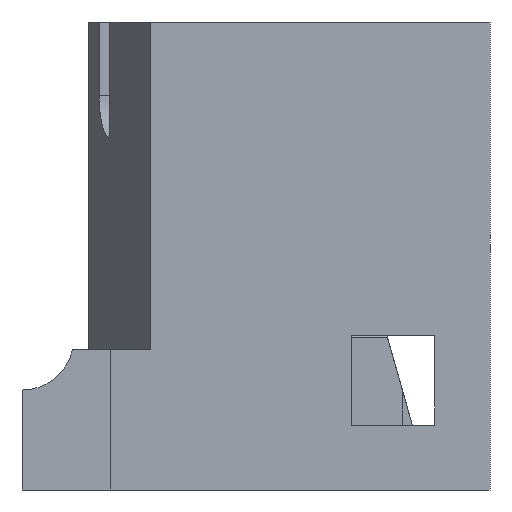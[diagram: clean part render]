
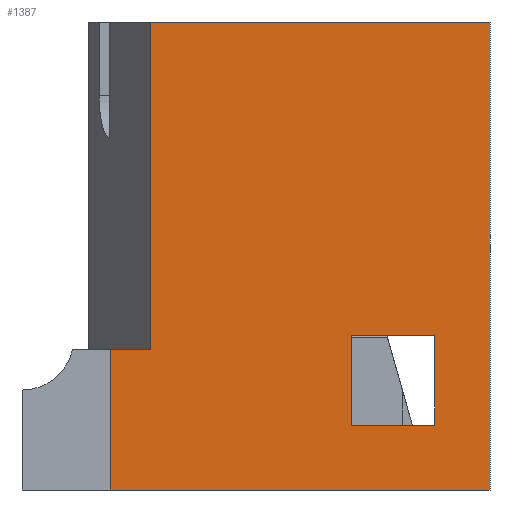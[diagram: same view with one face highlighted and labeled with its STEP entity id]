
A CAD part, left-side view. The second image highlights one B-rep face of the part: STEP entity #1387.
In plain terms, the highlighted planar face has unit normal (-1, 0, 0).
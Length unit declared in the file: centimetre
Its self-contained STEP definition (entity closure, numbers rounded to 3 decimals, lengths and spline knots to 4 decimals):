
#33 = LINE ( 'NONE', #352, #207 ) ;
#73 = CARTESIAN_POINT ( 'NONE',  ( 0., 1000., 1000. ) ) ;
#80 = EDGE_LOOP ( 'NONE', ( #971, #135, #1370, #123, #1262, #493 ) ) ;
#85 = CARTESIAN_POINT ( 'NONE',  ( 0., 117.6601, 138.5228 ) ) ;
#118 = VERTEX_POINT ( 'NONE', #798 ) ;
#123 = ORIENTED_EDGE ( 'NONE', *, *, #342, .F. ) ;
#126 = EDGE_CURVE ( 'NONE', #605, #289, #505, .T. ) ;
#135 = ORIENTED_EDGE ( 'NONE', *, *, #779, .F. ) ;
#191 = CARTESIAN_POINT ( 'NONE',  ( 0., 296.6205, 138.5228 ) ) ;
#202 = EDGE_CURVE ( 'NONE', #1034, #1368, #633, .T. ) ;
#206 = VECTOR ( 'NONE', #1369, 100. ) ;
#207 = VECTOR ( 'NONE', #1228, 100. ) ;
#216 = CARTESIAN_POINT ( 'NONE',  ( 0., 117.6601, 138.5228 ) ) ;
#245 = CARTESIAN_POINT ( 'NONE',  ( 0., 117.6601, 330.5519 ) ) ;
#246 = EDGE_CURVE ( 'NONE', #784, #880, #314, .T. ) ;
#289 = VERTEX_POINT ( 'NONE', #1376 ) ;
#291 = CARTESIAN_POINT ( 'NONE',  ( 0., 117.6601, 330.5519 ) ) ;
#314 = LINE ( 'NONE', #85, #1143 ) ;
#318 = CARTESIAN_POINT ( 'NONE',  ( 0., 725.9074, 1000. ) ) ;
#331 = VERTEX_POINT ( 'NONE', #676 ) ;
#335 = DIRECTION ( 'NONE',  ( 0., 0., 1. ) ) ;
#342 = EDGE_CURVE ( 'NONE', #1034, #331, #33, .T. ) ;
#352 = CARTESIAN_POINT ( 'NONE',  ( 0., 811.5978, 0. ) ) ;
#383 = VECTOR ( 'NONE', #672, 100. ) ;
#387 = EDGE_CURVE ( 'NONE', #688, #784, #982, .T. ) ;
#416 = VECTOR ( 'NONE', #335, 100. ) ;
#445 = CARTESIAN_POINT ( 'NONE',  ( 0., 725.9074, 299.3811 ) ) ;
#493 = ORIENTED_EDGE ( 'NONE', *, *, #875, .F. ) ;
#505 = LINE ( 'NONE', #73, #1281 ) ;
#526 = CARTESIAN_POINT ( 'NONE',  ( 0., 296.6205, 138.5228 ) ) ;
#560 = LINE ( 'NONE', #245, #383 ) ;
#563 = EDGE_LOOP ( 'NONE', ( #1277, #1254, #1114, #681 ) ) ;
#593 = VECTOR ( 'NONE', #1239, 100. ) ;
#604 = AXIS2_PLACEMENT_3D ( 'NONE', #1345, #616, #920 ) ;
#605 = VERTEX_POINT ( 'NONE', #318 ) ;
#612 = CARTESIAN_POINT ( 'NONE',  ( 0., 811.5978, 0. ) ) ;
#616 = DIRECTION ( 'NONE',  ( 1., 0., 0. ) ) ;
#625 = CARTESIAN_POINT ( 'NONE',  ( 0., 725.9074, 299.3811 ) ) ;
#633 = LINE ( 'NONE', #1278, #1375 ) ;
#647 = LINE ( 'NONE', #625, #206 ) ;
#670 = CARTESIAN_POINT ( 'NONE',  ( 0., 117.6601, 138.5228 ) ) ;
#672 = DIRECTION ( 'NONE',  ( 0., 1., 0. ) ) ;
#676 = CARTESIAN_POINT ( 'NONE',  ( 0., 811.5978, 299.3811 ) ) ;
#681 = ORIENTED_EDGE ( 'NONE', *, *, #1301, .F. ) ;
#688 = VERTEX_POINT ( 'NONE', #526 ) ;
#698 = PLANE ( 'NONE',  #604 ) ;
#707 = VECTOR ( 'NONE', #1090, 100. ) ;
#779 = EDGE_CURVE ( 'NONE', #1117, #605, #861, .T. ) ;
#784 = VERTEX_POINT ( 'NONE', #216 ) ;
#798 = CARTESIAN_POINT ( 'NONE',  ( 0., 296.6205, 330.5519 ) ) ;
#806 = CARTESIAN_POINT ( 'NONE',  ( 0., 0., 1000. ) ) ;
#861 = LINE ( 'NONE', #445, #416 ) ;
#875 = EDGE_CURVE ( 'NONE', #289, #1368, #1258, .T. ) ;
#880 = VERTEX_POINT ( 'NONE', #291 ) ;
#908 = CARTESIAN_POINT ( 'NONE',  ( 0., 0., 0. ) ) ;
#920 = DIRECTION ( 'NONE',  ( 0., 0., -1. ) ) ;
#932 = DIRECTION ( 'NONE',  ( 0., 0., -1. ) ) ;
#946 = CARTESIAN_POINT ( 'NONE',  ( 0., 725.9074, 299.3811 ) ) ;
#968 = DIRECTION ( 'NONE',  ( 0., -1., 0. ) ) ;
#971 = ORIENTED_EDGE ( 'NONE', *, *, #126, .F. ) ;
#982 = LINE ( 'NONE', #670, #707 ) ;
#1020 = FACE_BOUND ( 'NONE', #563, .T. ) ;
#1034 = VERTEX_POINT ( 'NONE', #612 ) ;
#1090 = DIRECTION ( 'NONE',  ( 0., -1., 0. ) ) ;
#1114 = ORIENTED_EDGE ( 'NONE', *, *, #1127, .F. ) ;
#1117 = VERTEX_POINT ( 'NONE', #946 ) ;
#1127 = EDGE_CURVE ( 'NONE', #118, #688, #1176, .T. ) ;
#1135 = EDGE_CURVE ( 'NONE', #331, #1117, #647, .T. ) ;
#1143 = VECTOR ( 'NONE', #1175, 100. ) ;
#1144 = DIRECTION ( 'NONE',  ( 0., -1., 0. ) ) ;
#1175 = DIRECTION ( 'NONE',  ( 0., 0., 1. ) ) ;
#1176 = LINE ( 'NONE', #191, #1237 ) ;
#1228 = DIRECTION ( 'NONE',  ( 0., 0., 1. ) ) ;
#1229 = FACE_OUTER_BOUND ( 'NONE', #80, .T. ) ;
#1237 = VECTOR ( 'NONE', #932, 100. ) ;
#1239 = DIRECTION ( 'NONE',  ( 0., 0., -1. ) ) ;
#1254 = ORIENTED_EDGE ( 'NONE', *, *, #387, .F. ) ;
#1258 = LINE ( 'NONE', #806, #593 ) ;
#1262 = ORIENTED_EDGE ( 'NONE', *, *, #202, .T. ) ;
#1277 = ORIENTED_EDGE ( 'NONE', *, *, #246, .F. ) ;
#1278 = CARTESIAN_POINT ( 'NONE',  ( 0., 1000., 0. ) ) ;
#1281 = VECTOR ( 'NONE', #1144, 100. ) ;
#1301 = EDGE_CURVE ( 'NONE', #880, #118, #560, .T. ) ;
#1345 = CARTESIAN_POINT ( 'NONE',  ( 0., 1000., 1000. ) ) ;
#1368 = VERTEX_POINT ( 'NONE', #908 ) ;
#1369 = DIRECTION ( 'NONE',  ( 0., -1., 0. ) ) ;
#1370 = ORIENTED_EDGE ( 'NONE', *, *, #1135, .F. ) ;
#1375 = VECTOR ( 'NONE', #968, 100. ) ;
#1376 = CARTESIAN_POINT ( 'NONE',  ( 0., 0., 1000. ) ) ;
#1387 = ADVANCED_FACE ( 'NONE', ( #1020, #1229 ), #698, .F. ) ;
